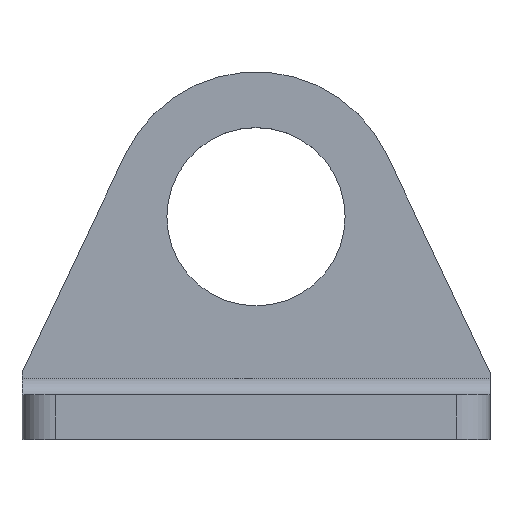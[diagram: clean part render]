
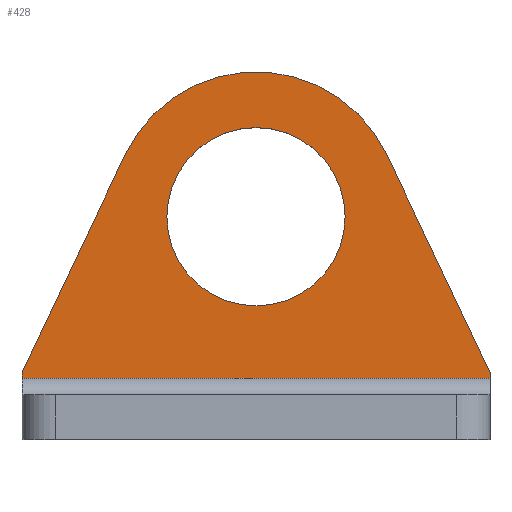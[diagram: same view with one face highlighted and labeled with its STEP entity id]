
A CAD part, top view. The second image highlights one B-rep face of the part: STEP entity #428.
In plain terms, the highlighted planar face has unit normal (0, 0, 1).
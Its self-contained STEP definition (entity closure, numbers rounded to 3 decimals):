
#43 = ORIENTED_EDGE ( 'NONE', *, *, #467, .T. ) ;
#44 = CARTESIAN_POINT ( 'NONE',  ( 0., 0., 0. ) ) ;
#54 = DIRECTION ( 'NONE',  ( 0., 0., -1. ) ) ;
#55 = AXIS2_PLACEMENT_3D ( 'NONE', #308, #353, #507 ) ;
#66 = EDGE_CURVE ( 'NONE', #306, #385, #502, .T. ) ;
#74 = VERTEX_POINT ( 'NONE', #568 ) ;
#76 = VERTEX_POINT ( 'NONE', #294 ) ;
#91 = CARTESIAN_POINT ( 'NONE',  ( 21., -14.5, 0. ) ) ;
#103 = DIRECTION ( 'NONE',  ( 0., 1., 0. ) ) ;
#104 = CARTESIAN_POINT ( 'NONE',  ( 0., 0., 0. ) ) ;
#112 = CARTESIAN_POINT ( 'NONE',  ( 0., -14.5, 0. ) ) ;
#117 = EDGE_CURVE ( 'NONE', #385, #306, #287, .T. ) ;
#124 = CIRCLE ( 'NONE', #375, 13. ) ;
#128 = ORIENTED_EDGE ( 'NONE', *, *, #66, .F. ) ;
#132 = DIRECTION ( 'NONE',  ( -1., 0., 0. ) ) ;
#141 = DIRECTION ( 'NONE',  ( 0., 0., -1. ) ) ;
#166 = LINE ( 'NONE', #112, #390 ) ;
#167 = VERTEX_POINT ( 'NONE', #661 ) ;
#170 = EDGE_CURVE ( 'NONE', #284, #74, #440, .T. ) ;
#173 = CARTESIAN_POINT ( 'NONE',  ( -8., 0., 0. ) ) ;
#181 = ORIENTED_EDGE ( 'NONE', *, *, #183, .F. ) ;
#183 = EDGE_CURVE ( 'NONE', #76, #426, #479, .T. ) ;
#191 = DIRECTION ( 'NONE',  ( 0., 1., 0. ) ) ;
#193 = EDGE_CURVE ( 'NONE', #167, #76, #261, .T. ) ;
#214 = CARTESIAN_POINT ( 'NONE',  ( 21., -14., 0. ) ) ;
#237 = PLANE ( 'NONE',  #552 ) ;
#246 = ORIENTED_EDGE ( 'NONE', *, *, #170, .T. ) ;
#261 = LINE ( 'NONE', #432, #633 ) ;
#267 = CARTESIAN_POINT ( 'NONE',  ( 21., -14., 0. ) ) ;
#268 = EDGE_CURVE ( 'NONE', #167, #481, #166, .T. ) ;
#281 = VECTOR ( 'NONE', #191, 1000. ) ;
#284 = VERTEX_POINT ( 'NONE', #214 ) ;
#287 = CIRCLE ( 'NONE', #646, 8. ) ;
#294 = CARTESIAN_POINT ( 'NONE',  ( -21., -14., 0. ) ) ;
#298 = ORIENTED_EDGE ( 'NONE', *, *, #117, .F. ) ;
#302 = EDGE_LOOP ( 'NONE', ( #577, #618, #43, #246, #559, #181 ) ) ;
#306 = VERTEX_POINT ( 'NONE', #173 ) ;
#308 = CARTESIAN_POINT ( 'NONE',  ( 0., 0., 0. ) ) ;
#324 = DIRECTION ( 'NONE',  ( 1., 0., 0. ) ) ;
#353 = DIRECTION ( 'NONE',  ( 0., 0., 1. ) ) ;
#356 = FACE_BOUND ( 'NONE', #483, .T. ) ;
#375 = AXIS2_PLACEMENT_3D ( 'NONE', #104, #54, #565 ) ;
#381 = DIRECTION ( 'NONE',  ( 0.427, 0.904, 0. ) ) ;
#385 = VERTEX_POINT ( 'NONE', #603 ) ;
#387 = CARTESIAN_POINT ( 'NONE',  ( -21., -14., 0. ) ) ;
#390 = VECTOR ( 'NONE', #324, 1000. ) ;
#406 = DIRECTION ( 'NONE',  ( 1., 0., 0. ) ) ;
#417 = LINE ( 'NONE', #571, #281 ) ;
#426 = VERTEX_POINT ( 'NONE', #617 ) ;
#428 = ADVANCED_FACE ( 'NONE', ( #356, #663 ), #237, .F. ) ;
#432 = CARTESIAN_POINT ( 'NONE',  ( -21., -20., 0. ) ) ;
#440 = LINE ( 'NONE', #267, #580 ) ;
#467 = EDGE_CURVE ( 'NONE', #481, #284, #417, .T. ) ;
#479 = LINE ( 'NONE', #387, #657 ) ;
#481 = VERTEX_POINT ( 'NONE', #91 ) ;
#483 = EDGE_LOOP ( 'NONE', ( #298, #128 ) ) ;
#484 = DIRECTION ( 'NONE',  ( -0.427, 0.904, 0. ) ) ;
#502 = CIRCLE ( 'NONE', #55, 8. ) ;
#507 = DIRECTION ( 'NONE',  ( 1., 0., 0. ) ) ;
#517 = CARTESIAN_POINT ( 'NONE',  ( 0., 0., 0. ) ) ;
#552 = AXIS2_PLACEMENT_3D ( 'NONE', #517, #141, #132 ) ;
#559 = ORIENTED_EDGE ( 'NONE', *, *, #647, .F. ) ;
#565 = DIRECTION ( 'NONE',  ( -1., 0., 0. ) ) ;
#568 = CARTESIAN_POINT ( 'NONE',  ( 11.752, 5.557, 0. ) ) ;
#571 = CARTESIAN_POINT ( 'NONE',  ( 21., -20., 0. ) ) ;
#577 = ORIENTED_EDGE ( 'NONE', *, *, #193, .F. ) ;
#580 = VECTOR ( 'NONE', #484, 1000. ) ;
#603 = CARTESIAN_POINT ( 'NONE',  ( 8., 0., 0. ) ) ;
#617 = CARTESIAN_POINT ( 'NONE',  ( -11.752, 5.557, 0. ) ) ;
#618 = ORIENTED_EDGE ( 'NONE', *, *, #268, .T. ) ;
#633 = VECTOR ( 'NONE', #103, 1000. ) ;
#646 = AXIS2_PLACEMENT_3D ( 'NONE', #44, #667, #406 ) ;
#647 = EDGE_CURVE ( 'NONE', #426, #74, #124, .T. ) ;
#657 = VECTOR ( 'NONE', #381, 1000. ) ;
#661 = CARTESIAN_POINT ( 'NONE',  ( -21., -14.5, 0. ) ) ;
#663 = FACE_OUTER_BOUND ( 'NONE', #302, .T. ) ;
#667 = DIRECTION ( 'NONE',  ( 0., 0., 1. ) ) ;
